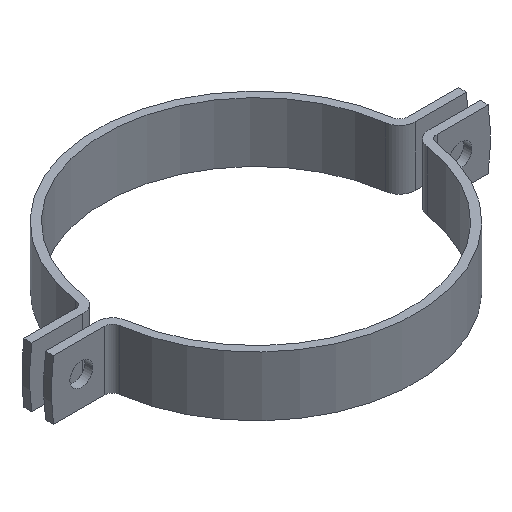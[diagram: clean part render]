
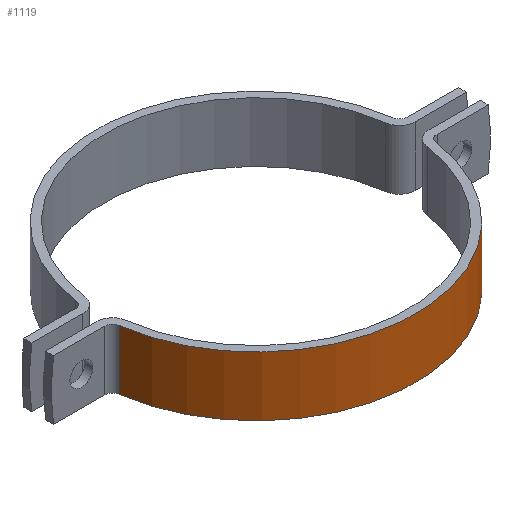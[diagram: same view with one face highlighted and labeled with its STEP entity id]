
A CAD part, isometric view. The second image highlights one B-rep face of the part: STEP entity #1119.
In plain terms, the highlighted cylindrical face has radius 161 mm (diameter 322 mm), a partial arc.
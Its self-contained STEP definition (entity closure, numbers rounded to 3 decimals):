
#22 = DIRECTION ( 'NONE',  ( 0., 0., 1. ) ) ;
#48 = DIRECTION ( 'NONE',  ( 1., 0., 0. ) ) ;
#61 = VECTOR ( 'NONE', #22, 1000. ) ;
#113 = EDGE_LOOP ( 'NONE', ( #321, #803, #345, #948 ) ) ;
#281 = AXIS2_PLACEMENT_3D ( 'NONE', #1212, #833, #48 ) ;
#298 = CIRCLE ( 'NONE', #281, 161. ) ;
#305 = LINE ( 'NONE', #501, #61 ) ;
#321 = ORIENTED_EDGE ( 'NONE', *, *, #428, .F. ) ;
#345 = ORIENTED_EDGE ( 'NONE', *, *, #739, .T. ) ;
#408 = CARTESIAN_POINT ( 'NONE',  ( 159.502, -21.911, 0. ) ) ;
#424 = CYLINDRICAL_SURFACE ( 'NONE', #922, 161. ) ;
#426 = VERTEX_POINT ( 'NONE', #542 ) ;
#428 = EDGE_CURVE ( 'NONE', #1189, #1040, #1238, .T. ) ;
#501 = CARTESIAN_POINT ( 'NONE',  ( -159.502, -21.911, -60. ) ) ;
#516 = DIRECTION ( 'NONE',  ( 0., 0., 1. ) ) ;
#542 = CARTESIAN_POINT ( 'NONE',  ( 159.502, -21.911, -60. ) ) ;
#585 = CARTESIAN_POINT ( 'NONE',  ( 159.502, -21.911, -60. ) ) ;
#612 = VECTOR ( 'NONE', #1182, 1000. ) ;
#619 = DIRECTION ( 'NONE',  ( 1., 0., 0. ) ) ;
#634 = DIRECTION ( 'NONE',  ( 0., 0., 1. ) ) ;
#664 = CARTESIAN_POINT ( 'NONE',  ( -159.502, -21.911, -60. ) ) ;
#729 = FACE_OUTER_BOUND ( 'NONE', #113, .T. ) ;
#739 = EDGE_CURVE ( 'NONE', #1223, #426, #298, .T. ) ;
#743 = CARTESIAN_POINT ( 'NONE',  ( -159.502, -21.911, 0. ) ) ;
#803 = ORIENTED_EDGE ( 'NONE', *, *, #977, .F. ) ;
#813 = DIRECTION ( 'NONE',  ( 1., 0., 0. ) ) ;
#833 = DIRECTION ( 'NONE',  ( 0., 0., 1. ) ) ;
#922 = AXIS2_PLACEMENT_3D ( 'NONE', #1126, #634, #813 ) ;
#948 = ORIENTED_EDGE ( 'NONE', *, *, #1003, .T. ) ;
#977 = EDGE_CURVE ( 'NONE', #1223, #1189, #305, .T. ) ;
#1001 = AXIS2_PLACEMENT_3D ( 'NONE', #1024, #516, #619 ) ;
#1003 = EDGE_CURVE ( 'NONE', #426, #1040, #1005, .T. ) ;
#1005 = LINE ( 'NONE', #585, #612 ) ;
#1024 = CARTESIAN_POINT ( 'NONE',  ( 0., 0., 0. ) ) ;
#1040 = VERTEX_POINT ( 'NONE', #408 ) ;
#1119 = ADVANCED_FACE ( 'NONE', ( #729 ), #424, .T. ) ;
#1126 = CARTESIAN_POINT ( 'NONE',  ( 0., 0., -60. ) ) ;
#1182 = DIRECTION ( 'NONE',  ( 0., 0., 1. ) ) ;
#1189 = VERTEX_POINT ( 'NONE', #743 ) ;
#1212 = CARTESIAN_POINT ( 'NONE',  ( 0., 0., -60. ) ) ;
#1223 = VERTEX_POINT ( 'NONE', #664 ) ;
#1238 = CIRCLE ( 'NONE', #1001, 161. ) ;
